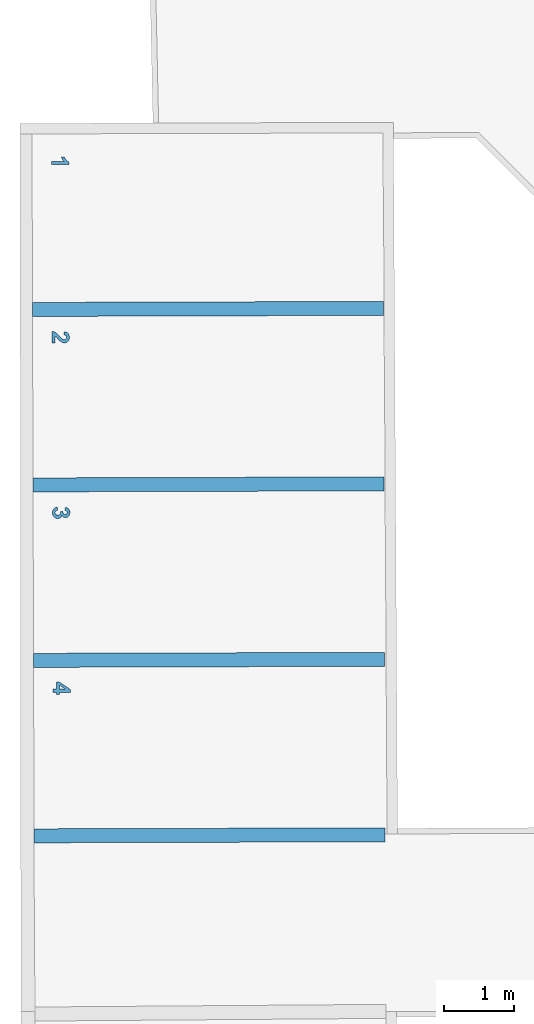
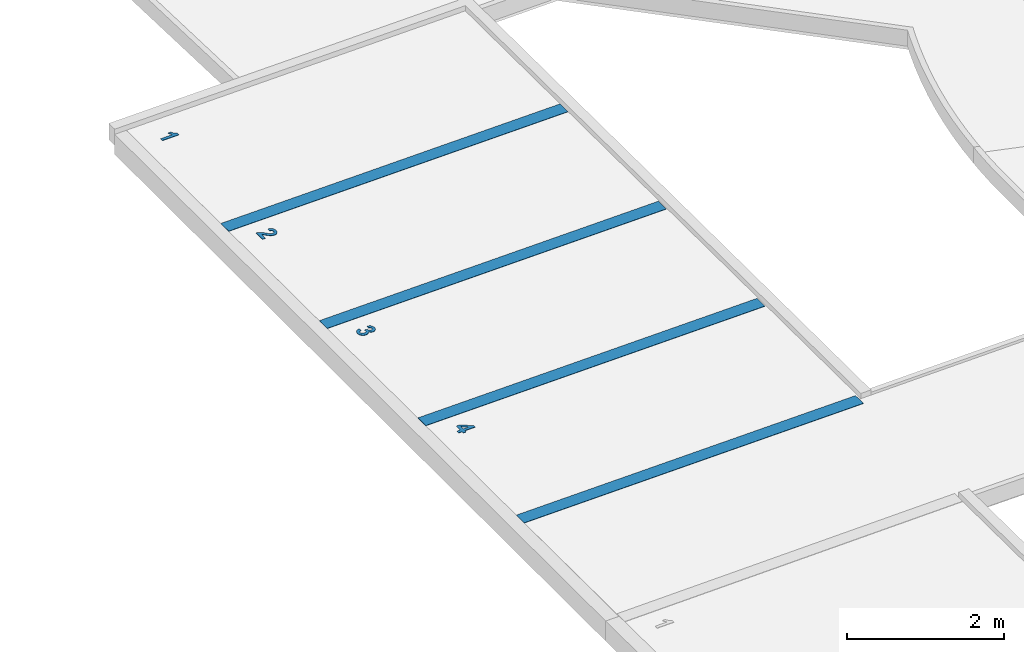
# One storey, part 2 of 8: 1 beam.
"""IFC4 building model written with IfcOpenShell, lengths in millimetres."""

from ifc_helpers import new_model, entity, si_unit, converted_unit, derived_unit, direction, frame, origin_with_axes, place, context, subcontext, project, spatial, polygons, type_object, element, save


model = new_model("IFC4")

# Units and contexts
model_context = context("Model", 3, precision=0.01, world=origin_with_axes(), true_north=direction((0.0, 1.0)))
body_context = subcontext(model_context, "Body", "Model", "MODEL_VIEW")
ifc_project = project(units=[si_unit("LENGTHUNIT", "METRE", prefix="MILLI"), si_unit("AREAUNIT", "SQUARE_METRE"), si_unit("VOLUMEUNIT", "CUBIC_METRE"), converted_unit("PLANEANGLEUNIT", "DEGREE", entity("IfcPlaneAngleMeasure", 0.0174532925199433), si_unit("PLANEANGLEUNIT", "RADIAN"), dimensions=[0, 0, 0, 0, 0, 0, 0]), converted_unit("TIMEUNIT", "Year", entity("IfcTimeMeasure", 31557600.0), si_unit("TIMEUNIT", "SECOND"), dimensions=[0, 0, 1, 0, 0, 0, 0]), si_unit("MASSUNIT", "GRAM", prefix="KILO"), si_unit("THERMODYNAMICTEMPERATUREUNIT", "DEGREE_CELSIUS"), si_unit("LUMINOUSINTENSITYUNIT", "LUMEN"), si_unit("ENERGYUNIT", "JOULE", prefix="MEGA"), derived_unit("THERMALCONDUCTANCEUNIT", [(si_unit("POWERUNIT", "WATT"), 1), (si_unit("LENGTHUNIT", "METRE"), -1), (si_unit("THERMODYNAMICTEMPERATUREUNIT", "KELVIN"), -1)]), derived_unit("SPECIFICHEATCAPACITYUNIT", [(si_unit("ENERGYUNIT", "JOULE"), 1), (si_unit("MASSUNIT", "GRAM", prefix="KILO"), -1), (si_unit("THERMODYNAMICTEMPERATUREUNIT", "KELVIN"), -1)]), derived_unit("MASSDENSITYUNIT", [(si_unit("MASSUNIT", "GRAM", prefix="KILO"), 1), (si_unit("VOLUMEUNIT", "CUBIC_METRE"), -1)])], contexts=[model_context])

# Site, building, storey
site_placement = place(None, origin_with_axes())
site = spatial("IfcSite", under=ifc_project, at=site_placement, Name="Exteriér", CompositionType="ELEMENT")
building_placement = place(site_placement, origin_with_axes())
building = spatial("IfcBuilding", under=site, at=building_placement, Name="Univerzitní lezecké centrum", CompositionType="ELEMENT")
storey_placement = place(building_placement, origin_with_axes())
storey = spatial("IfcBuildingStorey", under=building, at=storey_placement, Name="1.NP", CompositionType="ELEMENT", Elevation=0.0)

# Beam
beam_type = type_object("IfcBeamType", Name="Parkoviště 24", PredefinedType="BEAM")
beam_placement = place(storey_placement, frame((-16512.2961001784, 15005.81657959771, -160.0), z_axis=(0.0, 0.0, 1.0), x_axis=(0.002952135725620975, -0.9999956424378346, 0.0)))
element("IfcBeam", 1, at=beam_placement, inside=storey, type_object=beam_type, Name="Obj0062", PredefinedType="BEAM", context=body_context, shape_type="Tessellation", body=[
    polygons([(439.5925444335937, 278.0135936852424, 5.561423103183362), (439.5925444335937, 524.3928759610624, 10.49002898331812), (439.5925444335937, 524.192874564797, 20.48802875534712), (439.5925444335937, 277.8135922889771, 15.55942287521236), (392.550125, 278.0135936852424, 5.561423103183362), (392.550125, 455.2660806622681, 9.10720682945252), (381.8693212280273, 446.1272842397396, 8.92439305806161), (370.45191015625, 437.992750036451, 8.761668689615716), (358.2978921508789, 430.8624795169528, 8.619033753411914), (345.407267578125, 424.7364741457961, 8.49648827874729), (331.7800368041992, 419.6147353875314, 8.394032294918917), (331.7800368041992, 462.2959242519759, 9.247832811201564), (341.1864250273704, 465.9834427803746, 9.321598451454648), (350.9904149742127, 471.0204475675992, 9.422359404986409), (361.192006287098, 477.4069386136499, 9.550115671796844), (371.7911986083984, 485.1429159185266, 9.704867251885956), (381.7416703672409, 493.9040615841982, 9.880126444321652), (389.9971111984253, 503.3661034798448, 10.06940646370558), (396.5575203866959, 513.5290416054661, 10.27270731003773), (401.4228972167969, 524.3928759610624, 10.49002898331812), (401.4228972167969, 524.192874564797, 20.48802875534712), (396.5575203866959, 513.3290402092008, 20.27070708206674), (389.9971111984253, 503.1661020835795, 20.06740623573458), (381.7416703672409, 493.704060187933, 19.87812621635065), (371.7911986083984, 484.9429145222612, 19.70286702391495), (361.192006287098, 477.2069372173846, 19.54811544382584), (350.9904149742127, 470.8204461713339, 19.42035917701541), (341.1864250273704, 465.7834413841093, 19.31959822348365), (331.7800368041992, 462.0959228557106, 19.24583258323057), (331.7800368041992, 419.4147339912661, 18.39203206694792), (345.407267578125, 424.5364727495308, 18.49448805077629), (358.2978921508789, 430.6624781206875, 18.61703352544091), (370.45191015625, 437.7927486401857, 18.75966846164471), (381.8693212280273, 445.9272828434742, 18.92239283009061), (392.550125, 455.0660792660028, 19.10520660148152), (392.550125, 277.8135922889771, 15.55942287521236)], [[[1, 2, 3, 4]], [[1, 5, 6, 7, 8, 9, 10, 11, 12, 13, 14, 15, 16, 17, 18, 19, 20, 2]], [[2, 20, 21, 3]], [[4, 3, 21, 22, 23, 24, 25, 26, 27, 28, 29, 30, 31, 32, 33, 34, 35, 36]], [[5, 1, 4, 36]], [[6, 5, 36, 35]], [[7, 6, 35, 34]], [[8, 7, 34, 33]], [[9, 8, 33, 32]], [[10, 9, 32, 31]], [[11, 10, 31, 30]], [[12, 11, 30, 29]], [[13, 12, 29, 28]], [[14, 13, 28, 27]], [[15, 14, 27, 26]], [[16, 15, 26, 25]], [[17, 16, 25, 24]], [[18, 17, 24, 23]], [[19, 18, 23, 22]], [[20, 19, 22, 21]]], closed=True),
    polygons([(2400.219382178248, 0.0, 0.0), (2600.219382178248, 0.0, 0.0), (2600.219382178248, -0.2000013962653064, 9.997999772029), (2400.219382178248, -0.2000013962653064, 9.997999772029), (2400.219382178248, 5002.808550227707, 100.0768871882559), (2600.219382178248, 5002.808550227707, 100.0768871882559), (2600.219382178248, 5002.608548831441, 110.0748869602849), (2400.219382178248, 5002.608548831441, 110.0748869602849)], [[[1, 2, 3, 4]], [[1, 5, 6, 2]], [[2, 6, 7, 3]], [[4, 3, 7, 8]], [[5, 1, 4, 8]], [[6, 5, 8, 7]]], closed=True),
    polygons([(2978.316382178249, 321.6990524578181, 6.435313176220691), (2884.901205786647, 321.6990524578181, 6.435313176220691), (2884.901205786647, 321.4990510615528, 16.43331294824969), (2978.316382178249, 321.4990510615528, 16.43331294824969), (2978.316382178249, 278.0135936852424, 5.561423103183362), (2813.416828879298, 278.0135936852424, 5.561423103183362), (2815.425757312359, 290.2373619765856, 5.805949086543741), (2818.773971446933, 302.1368373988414, 6.04398786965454), (2823.461471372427, 313.7120192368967, 6.275539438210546), (2829.488257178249, 324.9629067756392, 6.500603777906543), (2835.890042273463, 334.4130240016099, 6.689645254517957), (2844.381113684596, 345.0213918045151, 6.90185653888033), (2854.961471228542, 356.7880107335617, 7.137237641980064), (2867.631114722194, 369.7128813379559, 7.395788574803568), (2882.390043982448, 383.7960041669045, 7.677509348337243), (2896.755977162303, 397.4163260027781, 7.949972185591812), (2908.045737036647, 408.6515232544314, 8.174722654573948), (2916.259325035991, 417.5015952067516, 8.351760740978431), (2921.396742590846, 423.9665411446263, 8.481086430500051), (2926.791082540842, 433.6372183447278, 8.674540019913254), (2930.027688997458, 443.2335153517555, 8.866505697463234), (2931.10655856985, 452.7554287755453, 9.056983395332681), (2930.167197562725, 462.4354057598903, 9.250623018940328), (2927.34911680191, 470.4974101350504, 9.411896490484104), (2922.652319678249, 476.9414317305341, 9.54080360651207), (2916.300012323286, 481.6372859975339, 9.63474013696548), (2908.515414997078, 484.4547996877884, 9.691102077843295), (2899.298529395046, 485.3939795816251, 9.709889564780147), (2890.146740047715, 484.4083018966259, 9.690171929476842), (2882.334240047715, 481.4513016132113, 9.631019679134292), (2875.861029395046, 476.5229821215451, 9.53243288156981), (2870.875908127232, 469.3071660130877, 9.388086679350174), (2867.527692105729, 459.4877041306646, 9.191656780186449), (2865.816382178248, 447.0645964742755, 8.943143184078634), (2818.941382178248, 451.7511588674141, 9.036893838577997), (2822.15357498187, 469.7965062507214, 9.397875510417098), (2827.604886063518, 485.1010598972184, 9.704029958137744), (2835.295315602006, 497.6648183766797, 9.955357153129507), (2845.224863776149, 507.4877802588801, 10.15185706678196), (2856.964540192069, 514.8837531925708, 10.2998071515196), (2870.085355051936, 520.1665925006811, 10.40548581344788), (2884.587309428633, 523.3362996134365, 10.46889308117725), (2900.470404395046, 524.3928759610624, 10.49002898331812), (2917.661392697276, 523.1689229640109, 10.46554485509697), (2932.906231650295, 519.4970849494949, 10.39209289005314), (2946.204919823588, 513.3773590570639, 10.26967303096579), (2957.557455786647, 504.809742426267, 10.09828522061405), (2966.639483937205, 494.4218873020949, 9.890485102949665), (2973.126648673, 482.8414716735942, 9.658828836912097), (2977.018948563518, 470.0684969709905, 9.403316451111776), (2978.316382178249, 456.102964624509, 9.123947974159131), (2977.656038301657, 445.2327446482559, 8.906498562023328), (2975.675008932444, 434.7158746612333, 8.696117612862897), (2972.373297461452, 424.5523614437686, 8.492805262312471), (2967.639294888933, 414.4074381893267, 8.28986478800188), (2961.361394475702, 403.946361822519, 8.08059994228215), (2953.539603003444, 393.1691289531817, 7.865010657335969), (2948.412646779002, 387.1330834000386, 7.744264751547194), (2941.569733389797, 379.904477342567, 7.599662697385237), (2933.010861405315, 371.4833122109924, 7.43120452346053), (2922.736029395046, 361.8695894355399, 7.2388902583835), (2909.705893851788, 349.7812320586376, 6.99707305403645), (2900.302989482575, 340.7428600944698, 6.816268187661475), (2894.527319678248, 334.7544735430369, 6.696475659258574), (2889.149250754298, 328.1430719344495, 6.564220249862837), (2889.149250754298, 327.9430705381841, 16.56222002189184), (2894.527319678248, 334.5544721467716, 16.69447543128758), (2900.302989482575, 340.5428586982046, 16.81426795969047), (2909.705893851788, 349.5812306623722, 16.99507282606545), (2922.736029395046, 361.6695880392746, 17.2368900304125), (2933.010861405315, 371.2833108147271, 17.42920429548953), (2941.569733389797, 379.7044759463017, 17.59766246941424), (2948.412646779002, 386.9330820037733, 17.74226452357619), (2953.539603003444, 392.9691275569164, 17.86301042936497), (2961.361394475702, 403.7463604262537, 18.07859971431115), (2967.639294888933, 414.2074367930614, 18.28786456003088), (2972.373297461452, 424.3523600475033, 18.49080503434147), (2975.675008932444, 434.515873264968, 18.6941173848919), (2977.656038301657, 445.0327432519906, 18.90449833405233), (2978.316382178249, 455.9029632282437, 19.12194774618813), (2977.018948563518, 469.8684955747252, 19.40131622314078), (2973.126648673, 482.6414702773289, 19.6568286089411), (2966.639483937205, 494.2218859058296, 19.88848487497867), (2957.557455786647, 504.6097410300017, 20.09628499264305), (2946.204919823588, 513.1773576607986, 20.26767280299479), (2932.906231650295, 519.2970835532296, 20.39009266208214), (2917.661392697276, 522.9689215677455, 20.46354462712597), (2900.470404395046, 524.192874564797, 20.48802875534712), (2884.587309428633, 523.1362982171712, 20.46689285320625), (2870.085355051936, 519.9665911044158, 20.40348558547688), (2856.964540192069, 514.6837517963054, 20.2978069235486), (2845.224863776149, 507.2877788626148, 20.14985683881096), (2835.295315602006, 497.4648169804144, 19.95335692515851), (2827.604886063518, 484.9010585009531, 19.70202973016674), (2822.15357498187, 469.5965048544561, 19.3958752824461), (2818.941382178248, 451.5511574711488, 19.034893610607), (2865.816382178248, 446.8645950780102, 18.94114295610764), (2867.527692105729, 459.2877027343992, 19.18965655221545), (2870.875908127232, 469.1071646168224, 19.38608645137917), (2875.861029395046, 476.3229807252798, 19.53043265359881), (2882.334240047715, 481.2513002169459, 19.62901945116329), (2890.146740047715, 484.2083005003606, 19.68817170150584), (2899.298529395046, 485.1939781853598, 19.70788933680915), (2908.515414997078, 484.2547982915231, 19.6891018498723), (2916.300012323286, 481.4372846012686, 19.63273990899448), (2922.652319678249, 476.7414303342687, 19.53880337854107), (2927.34911680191, 470.2974087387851, 19.4098962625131), (2930.167197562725, 462.235404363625, 19.24862279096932), (2931.10655856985, 452.55542737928, 19.05498316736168), (2930.027688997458, 443.0335139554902, 18.86450546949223), (2926.791082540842, 433.4372169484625, 18.67253979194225), (2921.396742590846, 423.766539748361, 18.47908620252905), (2916.259325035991, 417.3015938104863, 18.34976051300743), (2908.045737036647, 408.4515218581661, 18.17272242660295), (2896.755977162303, 397.2163246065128, 17.94797195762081), (2882.390043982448, 383.5960027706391, 17.67550912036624), (2867.631114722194, 369.5128799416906, 17.39378834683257), (2854.961471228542, 356.5880093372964, 17.13523741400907), (2844.381113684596, 344.8213904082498, 16.89985631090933), (2835.890042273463, 334.2130226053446, 16.68764502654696), (2829.488257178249, 324.7629053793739, 16.49860354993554), (2823.461471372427, 313.5120178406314, 16.27353921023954), (2818.773971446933, 301.9368360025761, 16.04198764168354), (2815.425757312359, 290.0373605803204, 15.80394885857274), (2813.416828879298, 277.8135922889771, 15.55942287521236), (2978.316382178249, 277.8135922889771, 15.55942287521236)], [[[1, 2, 3, 4]], [[1, 5, 6, 7, 8, 9, 10, 11, 12, 13, 14, 15, 16, 17, 18, 19, 20, 21, 22, 23, 24, 25, 26, 27, 28, 29, 30, 31, 32, 33, 34, 35, 36, 37, 38, 39, 40, 41, 42, 43, 44, 45, 46, 47, 48, 49, 50, 51, 52, 53, 54, 55, 56, 57, 58, 59, 60, 61, 62, 63, 64, 65, 2]], [[2, 65, 66, 3]], [[4, 3, 66, 67, 68, 69, 70, 71, 72, 73, 74, 75, 76, 77, 78, 79, 80, 81, 82, 83, 84, 85, 86, 87, 88, 89, 90, 91, 92, 93, 94, 95, 96, 97, 98, 99, 100, 101, 102, 103, 104, 105, 106, 107, 108, 109, 110, 111, 112, 113, 114, 115, 116, 117, 118, 119, 120, 121, 122, 123, 124, 125, 126]], [[5, 1, 4, 126]], [[6, 5, 126, 125]], [[7, 6, 125, 124]], [[8, 7, 124, 123]], [[9, 8, 123, 122]], [[10, 9, 122, 121]], [[11, 10, 121, 120]], [[12, 11, 120, 119]], [[13, 12, 119, 118]], [[14, 13, 118, 117]], [[15, 14, 117, 116]], [[16, 15, 116, 115]], [[17, 16, 115, 114]], [[18, 17, 114, 113]], [[19, 18, 113, 112]], [[20, 19, 112, 111]], [[21, 20, 111, 110]], [[22, 21, 110, 109]], [[23, 22, 109, 108]], [[24, 23, 108, 107]], [[25, 24, 107, 106]], [[26, 25, 106, 105]], [[27, 26, 105, 104]], [[28, 27, 104, 103]], [[29, 28, 103, 102]], [[30, 29, 102, 101]], [[31, 30, 101, 100]], [[32, 31, 100, 99]], [[33, 32, 99, 98]], [[34, 33, 98, 97]], [[35, 34, 97, 96]], [[36, 35, 96, 95]], [[37, 36, 95, 94]], [[38, 37, 94, 93]], [[39, 38, 93, 92]], [[40, 39, 92, 91]], [[41, 40, 91, 90]], [[42, 41, 90, 89]], [[43, 42, 89, 88]], [[44, 43, 88, 87]], [[45, 44, 87, 86]], [[46, 45, 86, 85]], [[47, 46, 85, 84]], [[48, 47, 84, 83]], [[49, 48, 83, 82]], [[50, 49, 82, 81]], [[51, 50, 81, 80]], [[52, 51, 80, 79]], [[53, 52, 79, 78]], [[54, 53, 78, 77]], [[55, 54, 77, 76]], [[56, 55, 76, 75]], [[57, 56, 75, 74]], [[58, 57, 74, 73]], [[59, 58, 73, 72]], [[60, 59, 72, 71]], [[61, 60, 71, 70]], [[62, 61, 70, 69]], [[63, 62, 69, 68]], [[64, 63, 68, 67]], [[65, 64, 67, 66]]], closed=True),
    polygons([(4900.438764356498, 0.0, 0.0), (5100.438764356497, 0.0, 0.0), (5100.438764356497, -0.2000013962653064, 9.997999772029), (4900.438764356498, -0.2000013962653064, 9.997999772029), (4900.438764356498, 5002.808550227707, 100.0768871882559), (5100.438764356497, 5002.808550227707, 100.0768871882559), (5100.438764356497, 5002.608548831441, 110.0748869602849), (4900.438764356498, 5002.608548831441, 110.0748869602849)], [[[1, 2, 3, 4]], [[1, 5, 6, 2]], [[2, 6, 7, 3]], [[4, 3, 7, 8]], [[5, 1, 4, 8]], [[6, 5, 8, 7]]], closed=True),
    polygons([(5317.988889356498, 343.1233398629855, 6.86388764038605), (5320.89765021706, 328.3784504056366, 6.568928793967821), (5320.89765021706, 328.1784490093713, 16.56692856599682), (5317.988889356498, 342.9233384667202, 16.86188741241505), (5363.524602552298, 348.646786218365, 6.974379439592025), (5365.793945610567, 337.9532388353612, 6.760464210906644), (5369.700195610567, 329.0822460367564, 6.583007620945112), (5375.243352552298, 322.0338052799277, 6.442009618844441), (5382.051386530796, 316.9195002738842, 6.339702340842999), (5389.752281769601, 313.8509175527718, 6.278317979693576), (5398.346036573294, 312.8280588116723, 6.257856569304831), (5407.544316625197, 314.0554894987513, 6.282410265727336), (5415.719538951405, 317.7377886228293, 6.356071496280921), (5422.871701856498, 323.8749553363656, 6.47884024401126), (5428.405550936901, 332.0950362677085, 6.643275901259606), (5431.725863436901, 342.0260862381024, 6.841938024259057), (5432.832639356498, 353.6681052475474, 7.074826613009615), (5431.77236685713, 364.6778044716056, 7.295066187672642), (5428.591563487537, 374.0509292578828, 7.482567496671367), (5423.290227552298, 381.787479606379, 7.63733054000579), (5416.463588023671, 387.5526884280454, 7.752658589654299), (5408.706891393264, 391.0118180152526, 7.821855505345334), (5400.020139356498, 392.1648666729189, 7.844921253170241), (5393.602727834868, 391.7743147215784, 7.837108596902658), (5386.404068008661, 390.6026741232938, 7.813670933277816), (5378.424161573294, 388.6499448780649, 7.77460826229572), (5383.613889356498, 426.9793356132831, 8.541354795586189), (5395.332639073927, 427.6767301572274, 8.555305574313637), (5405.042460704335, 430.4384530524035, 8.610551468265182), (5412.743352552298, 435.2644975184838, 8.707092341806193), (5418.323708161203, 441.7643121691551, 8.837115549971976), (5421.671923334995, 449.5473546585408, 8.992808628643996), (5422.787999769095, 458.6136317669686, 9.174171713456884), (5421.969543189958, 466.3129728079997, 9.328190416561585), (5419.514186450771, 472.8964753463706, 9.45988772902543), (5415.421926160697, 478.3641359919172, 9.569263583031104), (5409.971777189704, 482.4555726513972, 9.651109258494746), (5403.44275892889, 484.9104382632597, 9.700216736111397), (5395.834874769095, 485.7287362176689, 9.716586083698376), (5388.189784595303, 484.7988566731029, 9.697984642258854), (5381.32594272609, 482.0092417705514, 9.642180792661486), (5375.243352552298, 477.3598813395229, 9.549174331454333), (5370.295436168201, 470.9251487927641, 9.420453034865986), (5366.835614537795, 462.7794548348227, 9.257505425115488), (5364.863889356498, 452.9227994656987, 9.060331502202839), (5321.504514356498, 460.2873996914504, 9.20765400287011), (5325.029440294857, 474.1332127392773, 9.48462759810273), (5329.577431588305, 485.9890945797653, 9.721794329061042), (5335.148488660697, 495.8550519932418, 9.919154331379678), (5342.030927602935, 504.093731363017, 10.08396203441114), (5350.513069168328, 511.06778133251, 10.22347191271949), (5360.594915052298, 516.777212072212, 10.33768416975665), (5371.913740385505, 521.0081262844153, 10.42231997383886), (5384.10682142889, 523.546680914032, 10.47310157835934), (5397.174161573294, 524.3928759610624, 10.49002898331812), (5413.643188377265, 523.0120069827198, 10.46240588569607), (5428.396255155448, 518.8694200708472, 10.37953699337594), (5441.433363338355, 511.9651109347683, 10.24142222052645), (5452.754514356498, 502.2990752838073, 10.0480614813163), (5460.298456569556, 492.9677869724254, 9.86139707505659), (5465.68698849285, 483.0506869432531, 9.663014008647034), (5468.920108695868, 472.5477723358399, 9.452912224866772), (5469.997815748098, 461.459040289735, 9.23109166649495), (5467.790087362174, 446.123094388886, 8.92430924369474), (5461.166902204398, 432.4190813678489, 8.650172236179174), (5450.128260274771, 420.3470012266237, 8.408680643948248), (5434.674161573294, 409.9068539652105, 8.199834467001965), (5447.797300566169, 405.6480296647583, 8.114640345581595), (5459.041719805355, 398.8971468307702, 7.979594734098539), (5468.407422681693, 389.6542071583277, 7.794697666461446), (5475.429368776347, 378.4399310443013, 7.570365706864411), (5479.642541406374, 365.7750530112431, 7.317015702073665), (5481.046933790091, 351.6595730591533, 7.034647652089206), (5479.57162489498, 336.1039531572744, 6.723470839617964), (5475.145700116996, 321.7408953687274, 6.436150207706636), (5467.76916231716, 308.5703998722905, 6.172685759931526), (5457.442014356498, 296.592466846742, 5.933077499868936), (5444.917601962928, 286.6335214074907, 5.73385735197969), (5430.949269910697, 279.5199889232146, 5.591557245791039), (5415.537019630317, 275.2518694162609, 5.50617718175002), (5398.680852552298, 273.829162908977, 5.477717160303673), (5382.734981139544, 275.0269562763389, 5.501677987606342), (5368.21210207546, 278.6203363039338, 5.573560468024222), (5355.112215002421, 284.6093028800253, 5.693364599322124), (5343.435319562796, 292.9938558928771, 5.861090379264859), (5333.62086558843, 303.3137078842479, 6.067530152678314), (5326.108309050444, 315.1085729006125, 6.303476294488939), (5326.108309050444, 314.9085715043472, 16.30147606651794), (5333.62086558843, 303.1137064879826, 16.06552992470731), (5343.435319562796, 292.7938544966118, 15.85909015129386), (5355.112215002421, 284.40930148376, 15.69136437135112), (5368.21210207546, 278.4203349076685, 15.57156024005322), (5382.734981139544, 274.8269548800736, 15.49967775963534), (5398.680852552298, 273.6291615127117, 15.47571693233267), (5415.537019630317, 275.0518680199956, 15.50417695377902), (5430.949269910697, 279.3199875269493, 15.58955701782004), (5444.917601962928, 286.4335200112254, 15.73185712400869), (5457.442014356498, 296.3924654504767, 15.93107727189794), (5467.76916231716, 308.3703984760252, 16.17068553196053), (5475.145700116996, 321.5408939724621, 16.43414997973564), (5479.57162489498, 335.9039517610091, 16.72147061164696), (5481.046933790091, 351.459571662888, 17.0326474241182), (5479.642541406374, 365.5750516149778, 17.31501547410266), (5475.429368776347, 378.2399296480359, 17.56836547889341), (5468.407422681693, 389.4542057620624, 17.79269743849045), (5459.041719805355, 398.6971454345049, 17.97759450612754), (5447.797300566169, 405.448028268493, 18.1126401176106), (5434.674161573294, 409.7068525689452, 18.19783423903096), (5450.128260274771, 420.1469998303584, 18.40668041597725), (5461.166902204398, 432.2190799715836, 18.64817200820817), (5467.790087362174, 445.9230929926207, 18.92230901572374), (5469.997815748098, 461.2590388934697, 19.22909143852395), (5468.920108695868, 472.3477709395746, 19.45091199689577), (5465.68698849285, 482.8506855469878, 19.66101378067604), (5460.298456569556, 492.7677855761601, 19.85939684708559), (5452.754514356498, 502.099073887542, 20.0460612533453), (5441.433363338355, 511.7651095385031, 20.23942199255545), (5428.396255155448, 518.669418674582, 20.37753676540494), (5413.643188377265, 522.8120055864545, 20.46040565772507), (5397.174161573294, 524.192874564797, 20.48802875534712), (5384.10682142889, 523.3466795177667, 20.47110135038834), (5371.913740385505, 520.80812488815, 20.42031974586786), (5360.594915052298, 516.5772106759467, 20.33568394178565), (5350.513069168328, 510.8677799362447, 20.22147168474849), (5342.030927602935, 503.8937299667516, 20.08196180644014), (5335.148488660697, 495.6550505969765, 19.91715410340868), (5329.577431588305, 485.7890931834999, 19.71979410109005), (5325.029440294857, 473.933211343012, 19.48262737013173), (5321.504514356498, 460.0873982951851, 19.20565377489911), (5364.863889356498, 452.7227980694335, 19.05833127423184), (5366.835614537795, 462.5794534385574, 19.25550519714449), (5370.295436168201, 470.7251473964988, 19.41845280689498), (5375.243352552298, 477.1598799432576, 19.54717410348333), (5381.32594272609, 481.809240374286, 19.64018056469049), (5388.189784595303, 484.5988552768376, 19.69598441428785), (5395.834874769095, 485.5287348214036, 19.71458585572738), (5403.44275892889, 484.7104368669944, 19.69821650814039), (5409.971777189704, 482.2555712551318, 19.64910903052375), (5415.421926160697, 478.1641345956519, 19.5672633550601), (5419.514186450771, 472.6964739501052, 19.45788750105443), (5421.969543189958, 466.1129714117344, 19.32619018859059), (5422.787999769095, 458.4136303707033, 19.17217148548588), (5421.671923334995, 449.3473532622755, 18.990808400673), (5418.323708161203, 441.5643107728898, 18.83511532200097), (5412.743352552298, 435.0644961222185, 18.7050921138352), (5405.042460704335, 430.2384516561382, 18.60855124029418), (5395.332639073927, 427.4767287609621, 18.55330534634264), (5383.613889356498, 426.7793342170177, 18.53935456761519), (5378.424161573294, 388.4499434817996, 17.77260803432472), (5386.404068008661, 390.4026727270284, 17.81167070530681), (5393.602727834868, 391.5743133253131, 17.83510836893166), (5400.020139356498, 391.9648652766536, 17.84292102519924), (5408.706891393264, 390.8118166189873, 17.81985527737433), (5416.463588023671, 387.3526870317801, 17.7506583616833), (5423.290227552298, 381.5874782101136, 17.63533031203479), (5428.591563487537, 373.8509278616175, 17.48056726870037), (5431.77236685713, 364.4778030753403, 17.29306595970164), (5432.832639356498, 353.4681038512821, 17.07282638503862), (5431.725863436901, 341.8260848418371, 16.83993779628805), (5428.405550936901, 331.8950348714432, 16.64127567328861), (5422.871701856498, 323.6749539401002, 16.47684001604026), (5415.719538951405, 317.537787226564, 16.35407126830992), (5407.544316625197, 313.855488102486, 16.28041003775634), (5398.346036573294, 312.628057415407, 16.25585634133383), (5389.752281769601, 313.6509161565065, 16.27631775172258), (5382.051386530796, 316.7194988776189, 16.337702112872), (5375.243352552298, 321.8338038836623, 16.44000939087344), (5369.700195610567, 328.8822446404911, 16.58100739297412), (5365.793945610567, 337.7532374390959, 16.75846398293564), (5363.524602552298, 348.4467848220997, 16.97237921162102)], [[[1, 2, 3, 4]], [[1, 5, 6, 7, 8, 9, 10, 11, 12, 13, 14, 15, 16, 17, 18, 19, 20, 21, 22, 23, 24, 25, 26, 27, 28, 29, 30, 31, 32, 33, 34, 35, 36, 37, 38, 39, 40, 41, 42, 43, 44, 45, 46, 47, 48, 49, 50, 51, 52, 53, 54, 55, 56, 57, 58, 59, 60, 61, 62, 63, 64, 65, 66, 67, 68, 69, 70, 71, 72, 73, 74, 75, 76, 77, 78, 79, 80, 81, 82, 83, 84, 85, 86, 87, 2]], [[2, 87, 88, 3]], [[4, 3, 88, 89, 90, 91, 92, 93, 94, 95, 96, 97, 98, 99, 100, 101, 102, 103, 104, 105, 106, 107, 108, 109, 110, 111, 112, 113, 114, 115, 116, 117, 118, 119, 120, 121, 122, 123, 124, 125, 126, 127, 128, 129, 130, 131, 132, 133, 134, 135, 136, 137, 138, 139, 140, 141, 142, 143, 144, 145, 146, 147, 148, 149, 150, 151, 152, 153, 154, 155, 156, 157, 158, 159, 160, 161, 162, 163, 164, 165, 166, 167, 168, 169, 170]], [[5, 1, 4, 170]], [[6, 5, 170, 169]], [[7, 6, 169, 168]], [[8, 7, 168, 167]], [[9, 8, 167, 166]], [[10, 9, 166, 165]], [[11, 10, 165, 164]], [[12, 11, 164, 163]], [[13, 12, 163, 162]], [[14, 13, 162, 161]], [[15, 14, 161, 160]], [[16, 15, 160, 159]], [[17, 16, 159, 158]], [[18, 17, 158, 157]], [[19, 18, 157, 156]], [[20, 19, 156, 155]], [[21, 20, 155, 154]], [[22, 21, 154, 153]], [[23, 22, 153, 152]], [[24, 23, 152, 151]], [[25, 24, 151, 150]], [[26, 25, 150, 149]], [[27, 26, 149, 148]], [[28, 27, 148, 147]], [[29, 28, 147, 146]], [[30, 29, 146, 145]], [[31, 30, 145, 144]], [[32, 31, 144, 143]], [[33, 32, 143, 142]], [[34, 33, 142, 141]], [[35, 34, 141, 140]], [[36, 35, 140, 139]], [[37, 36, 139, 138]], [[38, 37, 138, 137]], [[39, 38, 137, 136]], [[40, 39, 136, 135]], [[41, 40, 135, 134]], [[42, 41, 134, 133]], [[43, 42, 133, 132]], [[44, 43, 132, 131]], [[45, 44, 131, 130]], [[46, 45, 130, 129]], [[47, 46, 129, 128]], [[48, 47, 128, 127]], [[49, 48, 127, 126]], [[50, 49, 126, 125]], [[51, 50, 125, 124]], [[52, 51, 124, 123]], [[53, 52, 123, 122]], [[54, 53, 122, 121]], [[55, 54, 121, 120]], [[56, 55, 120, 119]], [[57, 56, 119, 118]], [[58, 57, 118, 117]], [[59, 58, 117, 116]], [[60, 59, 116, 115]], [[61, 60, 115, 114]], [[62, 61, 114, 113]], [[63, 62, 113, 112]], [[64, 63, 112, 111]], [[65, 64, 111, 110]], [[66, 65, 110, 109]], [[67, 66, 109, 108]], [[68, 67, 108, 107]], [[69, 68, 107, 106]], [[70, 69, 106, 105]], [[71, 70, 105, 104]], [[72, 71, 104, 103]], [[73, 72, 103, 102]], [[74, 73, 102, 101]], [[75, 74, 101, 100]], [[76, 75, 100, 99]], [[77, 76, 99, 98]], [[78, 77, 98, 97]], [[79, 78, 97, 96]], [[80, 79, 96, 95]], [[81, 80, 95, 94]], [[82, 81, 94, 93]], [[83, 82, 93, 92]], [[84, 83, 92, 91]], [[85, 84, 91, 90]], [[86, 85, 90, 89]], [[87, 86, 89, 88]]], closed=True),
    polygons([(7400.658146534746, 0.0, 0.0), (7600.658146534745, 0.0, 0.0), (7600.658146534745, -0.2000013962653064, 9.997999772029), (7400.658146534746, -0.2000013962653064, 9.997999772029), (7400.658146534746, 5002.808550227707, 100.0768871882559), (7600.658146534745, 5002.808550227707, 100.0768871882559), (7600.658146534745, 5002.608548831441, 110.0748869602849), (7400.658146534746, 5002.608548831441, 110.0748869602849)], [[[1, 2, 3, 4]], [[1, 5, 6, 2]], [[2, 6, 7, 3]], [[4, 3, 7, 8]], [[5, 1, 4, 8]], [[6, 5, 8, 7]]], closed=True),
    polygons([(7912.125683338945, 278.0135936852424, 5.561423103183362), (7957.661396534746, 278.0135936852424, 5.561423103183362), (7957.661396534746, 277.8135922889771, 15.55942287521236), (7912.125683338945, 277.8135922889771, 15.55942287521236), (7912.125683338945, 327.3898771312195, 6.549153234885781), (7811.679253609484, 327.3898771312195, 6.549153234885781), (7811.679253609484, 368.564676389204, 7.372819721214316), (7918.152470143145, 524.3928759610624, 10.49002898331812), (7957.661396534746, 524.3928759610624, 10.49002898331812), (7957.661396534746, 368.7320547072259, 7.37616798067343), (7988.130146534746, 368.7320547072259, 7.37616798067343), (7988.130146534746, 327.3898771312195, 6.549153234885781), (7957.661396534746, 327.3898771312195, 6.549153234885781), (7912.125683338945, 368.7320547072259, 7.37616798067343), (7912.125683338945, 452.588042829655, 9.053634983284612), (7855.708271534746, 368.7320547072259, 7.37616798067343), (7957.661396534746, 327.1898757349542, 16.54715300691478), (7988.130146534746, 327.1898757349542, 16.54715300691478), (7988.130146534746, 368.5320533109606, 17.37416775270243), (7957.661396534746, 368.5320533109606, 17.37416775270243), (7957.661396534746, 524.192874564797, 20.48802875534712), (7918.152470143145, 524.192874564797, 20.48802875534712), (7811.679253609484, 368.3646749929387, 17.37081949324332), (7811.679253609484, 327.1898757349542, 16.54715300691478), (7912.125683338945, 327.1898757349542, 16.54715300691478), (7912.125683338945, 368.5320533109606, 17.37416775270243), (7855.708271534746, 368.5320533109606, 17.37416775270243), (7912.125683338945, 452.3880414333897, 19.05163475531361)], [[[1, 2, 3, 4]], [[1, 5, 6, 7, 8, 9, 10, 11, 12, 13, 2], [14, 15, 16]], [[2, 13, 17, 3]], [[4, 3, 17, 18, 19, 20, 21, 22, 23, 24, 25], [26, 27, 28]], [[5, 1, 4, 25]], [[6, 5, 25, 24]], [[7, 6, 24, 23]], [[8, 7, 23, 22]], [[9, 8, 22, 21]], [[10, 9, 21, 20]], [[11, 10, 20, 19]], [[12, 11, 19, 18]], [[13, 12, 18, 17]], [[15, 14, 26, 28]], [[16, 15, 28, 27]], [[14, 16, 27, 26]]], closed=True),
    polygons([(9900.877528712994, 0.0, 0.0), (10100.87752871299, 0.0, 0.0), (10100.87752871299, -0.2000013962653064, 9.997999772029), (9900.877528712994, -0.2000013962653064, 9.997999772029), (9900.877528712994, 5002.808550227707, 100.0768871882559), (10100.87752871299, 5002.808550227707, 100.0768871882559), (10100.87752871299, 5002.608548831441, 110.0748869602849), (9900.877528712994, 5002.608548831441, 110.0748869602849)], [[[1, 2, 3, 4]], [[1, 5, 6, 2]], [[2, 6, 7, 3]], [[4, 3, 7, 8]], [[5, 1, 4, 8]], [[6, 5, 8, 7]]], closed=True),
])

save(model, "model.ifc")
